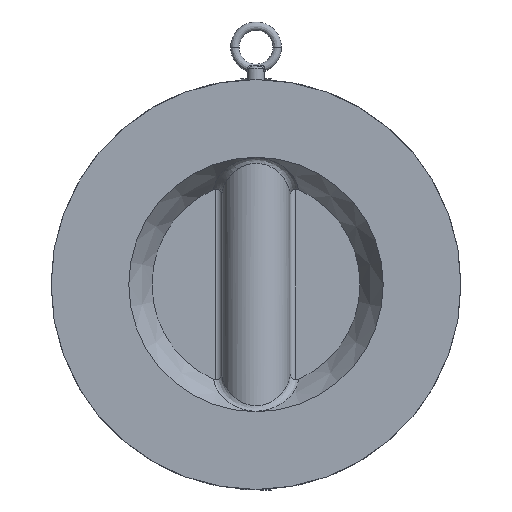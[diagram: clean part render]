
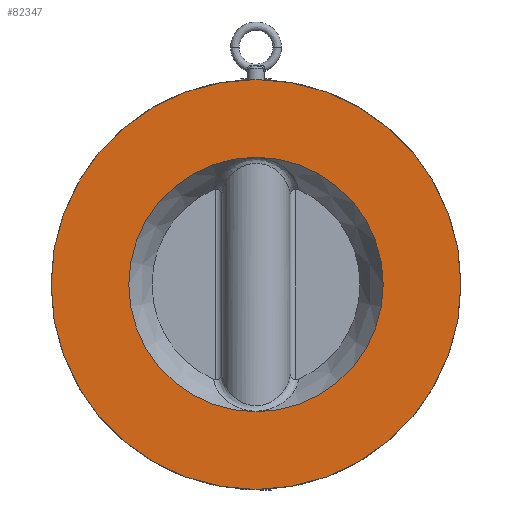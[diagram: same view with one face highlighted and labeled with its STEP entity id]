
A CAD part, front view. The second image highlights one B-rep face of the part: STEP entity #82347.
In plain terms, the highlighted planar face has unit normal (0, -1, 0).
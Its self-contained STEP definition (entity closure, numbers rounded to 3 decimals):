
#923 = CARTESIAN_POINT ( 'NONE',  ( 0., 0., 0. ) ) ;
#1273 = AXIS2_PLACEMENT_3D ( 'NONE', #923, #86850, #45757 ) ;
#1496 = DIRECTION ( 'NONE',  ( 0., 1., 0. ) ) ;
#2305 = CIRCLE ( 'NONE', #51389, 60.22 ) ;
#4271 = CARTESIAN_POINT ( 'NONE',  ( 0., 0., 0. ) ) ;
#5110 = ORIENTED_EDGE ( 'NONE', *, *, #105084, .T. ) ;
#6092 = VERTEX_POINT ( 'NONE', #108159 ) ;
#10016 = VERTEX_POINT ( 'NONE', #84153 ) ;
#12942 = DIRECTION ( 'NONE',  ( 0., 0., -1. ) ) ;
#15965 = AXIS2_PLACEMENT_3D ( 'NONE', #17132, #77418, #25813 ) ;
#17132 = CARTESIAN_POINT ( 'NONE',  ( 0., 0., 0. ) ) ;
#18363 = AXIS2_PLACEMENT_3D ( 'NONE', #4271, #64586, #12942 ) ;
#20130 = FACE_BOUND ( 'NONE', #45497, .T. ) ;
#25813 = DIRECTION ( 'NONE',  ( 0., 0., -1. ) ) ;
#27704 = EDGE_CURVE ( 'NONE', #6092, #10016, #2305, .T. ) ;
#44014 = DIRECTION ( 'NONE',  ( 0., 1., 0. ) ) ;
#44355 = EDGE_CURVE ( 'NONE', #105894, #100938, #81472, .T. ) ;
#45497 = EDGE_LOOP ( 'NONE', ( #87203, #68199 ) ) ;
#45757 = DIRECTION ( 'NONE',  ( 0., 0., -1. ) ) ;
#48233 = CARTESIAN_POINT ( 'NONE',  ( 0., 0., -97. ) ) ;
#51389 = AXIS2_PLACEMENT_3D ( 'NONE', #95634, #44014, #104285 ) ;
#53145 = CARTESIAN_POINT ( 'NONE',  ( 0., 0., 0. ) ) ;
#56970 = CIRCLE ( 'NONE', #65026, 60.22 ) ;
#61796 = DIRECTION ( 'NONE',  ( 0., 0., -1. ) ) ;
#63240 = FACE_OUTER_BOUND ( 'NONE', #74980, .T. ) ;
#64586 = DIRECTION ( 'NONE',  ( 0., -1., 0. ) ) ;
#65026 = AXIS2_PLACEMENT_3D ( 'NONE', #53145, #1496, #61796 ) ;
#68199 = ORIENTED_EDGE ( 'NONE', *, *, #27704, .T. ) ;
#74980 = EDGE_LOOP ( 'NONE', ( #5110, #82031 ) ) ;
#77418 = DIRECTION ( 'NONE',  ( 0., -1., 0. ) ) ;
#81472 = CIRCLE ( 'NONE', #18363, 97. ) ;
#81497 = CARTESIAN_POINT ( 'NONE',  ( 0., 0., 97. ) ) ;
#82031 = ORIENTED_EDGE ( 'NONE', *, *, #44355, .T. ) ;
#82347 = ADVANCED_FACE ( 'NONE', ( #20130, #63240 ), #97376, .T. ) ;
#84153 = CARTESIAN_POINT ( 'NONE',  ( 0., 0., -60.22 ) ) ;
#86850 = DIRECTION ( 'NONE',  ( 0., -1., 0. ) ) ;
#87203 = ORIENTED_EDGE ( 'NONE', *, *, #98503, .T. ) ;
#95634 = CARTESIAN_POINT ( 'NONE',  ( 0., 0., 0. ) ) ;
#97376 = PLANE ( 'NONE',  #1273 ) ;
#98503 = EDGE_CURVE ( 'NONE', #10016, #6092, #56970, .T. ) ;
#100938 = VERTEX_POINT ( 'NONE', #48233 ) ;
#101283 = CIRCLE ( 'NONE', #15965, 97. ) ;
#104285 = DIRECTION ( 'NONE',  ( 0., 0., -1. ) ) ;
#105084 = EDGE_CURVE ( 'NONE', #100938, #105894, #101283, .T. ) ;
#105894 = VERTEX_POINT ( 'NONE', #81497 ) ;
#108159 = CARTESIAN_POINT ( 'NONE',  ( 0., 0., 60.22 ) ) ;
